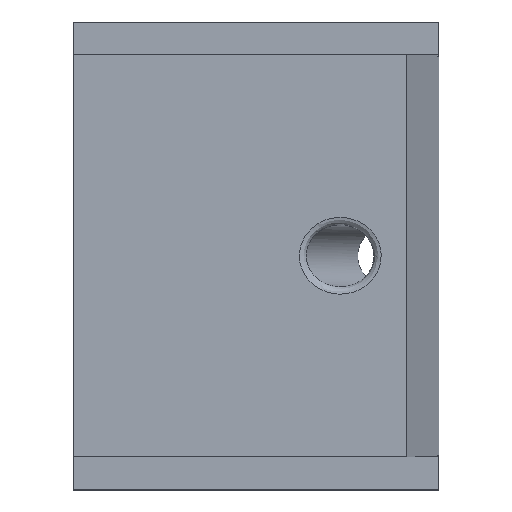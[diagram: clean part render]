
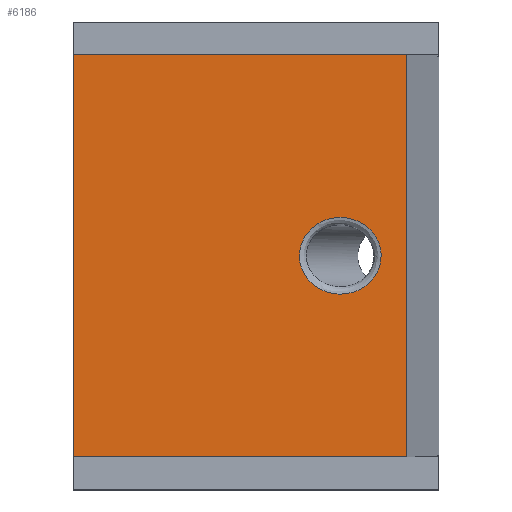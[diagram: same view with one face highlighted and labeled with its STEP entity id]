
A CAD part, top view. The second image highlights one B-rep face of the part: STEP entity #6186.
In plain terms, the highlighted planar face has unit normal (0, 0, 1).
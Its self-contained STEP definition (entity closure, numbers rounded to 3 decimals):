
#10 = CARTESIAN_POINT ( 'NONE',  ( 30.937, -10.5, 20. ) ) ;
#242 = VECTOR ( 'NONE', #6911, 1000. ) ;
#392 = EDGE_CURVE ( 'NONE', #10980, #9553, #9774, .T. ) ;
#413 = VECTOR ( 'NONE', #10930, 1000. ) ;
#547 = EDGE_CURVE ( 'NONE', #8639, #10764, #3340, .T. ) ;
#1038 =( BOUNDED_CURVE ( )  B_SPLINE_CURVE ( 3, ( #3530, #8043, #10, #2712, #7278, #6284, #9034 ),
 .UNSPECIFIED., .T., .F. ) 
 B_SPLINE_CURVE_WITH_KNOTS ( ( 4, 3, 4 ),
 ( 0., 3.142, 6.283 ),
 .UNSPECIFIED. ) 
 CURVE ( )  GEOMETRIC_REPRESENTATION_ITEM ( )  RATIONAL_B_SPLINE_CURVE ( ( 1., 0.333, 0.333, 1., 0.333, 0.333, 1. ) ) 
 REPRESENTATION_ITEM ( '' )  );
#1417 = DIRECTION ( 'NONE',  ( -1., 0., 0. ) ) ;
#1826 = LINE ( 'NONE', #2822, #4734 ) ;
#2502 = EDGE_LOOP ( 'NONE', ( #7431 ) ) ;
#2712 = CARTESIAN_POINT ( 'NONE',  ( 30.937, 0., 20. ) ) ;
#2822 = CARTESIAN_POINT ( 'NONE',  ( 0., 27.5, 20. ) ) ;
#3052 = CARTESIAN_POINT ( 'NONE',  ( 0., -27.5, 20. ) ) ;
#3279 = EDGE_CURVE ( 'NONE', #9456, #9456, #1038, .T. ) ;
#3289 = EDGE_CURVE ( 'NONE', #8639, #10980, #1826, .T. ) ;
#3340 = LINE ( 'NONE', #11311, #242 ) ;
#3424 = VECTOR ( 'NONE', #6199, 1000. ) ;
#3530 = CARTESIAN_POINT ( 'NONE',  ( 42.111, 0., 20. ) ) ;
#4357 = AXIS2_PLACEMENT_3D ( 'NONE', #5632, #9441, #1417 ) ;
#4362 = CARTESIAN_POINT ( 'NONE',  ( 45.632, 27.5, 20. ) ) ;
#4734 = VECTOR ( 'NONE', #9092, 1000. ) ;
#4937 = FACE_BOUND ( 'NONE', #2502, .T. ) ;
#5043 = EDGE_CURVE ( 'NONE', #10764, #9553, #10046, .T. ) ;
#5632 = CARTESIAN_POINT ( 'NONE',  ( 0., 27.5, 20. ) ) ;
#5866 = FACE_OUTER_BOUND ( 'NONE', #11234, .T. ) ;
#6053 = CARTESIAN_POINT ( 'NONE',  ( 42.111, 0., 20. ) ) ;
#6186 = ADVANCED_FACE ( 'NONE', ( #4937, #5866 ), #11030, .F. ) ;
#6199 = DIRECTION ( 'NONE',  ( 1., 0., 0. ) ) ;
#6284 = CARTESIAN_POINT ( 'NONE',  ( 42.111, 10.5, 20. ) ) ;
#6729 = CARTESIAN_POINT ( 'NONE',  ( 45.632, -27.5, 20. ) ) ;
#6911 = DIRECTION ( 'NONE',  ( 1., 0., 0. ) ) ;
#7278 = CARTESIAN_POINT ( 'NONE',  ( 30.937, 10.5, 20. ) ) ;
#7291 = ORIENTED_EDGE ( 'NONE', *, *, #3289, .T. ) ;
#7431 = ORIENTED_EDGE ( 'NONE', *, *, #3279, .T. ) ;
#8043 = CARTESIAN_POINT ( 'NONE',  ( 42.111, -10.5, 20. ) ) ;
#8639 = VERTEX_POINT ( 'NONE', #11545 ) ;
#9034 = CARTESIAN_POINT ( 'NONE',  ( 42.111, 0., 20. ) ) ;
#9092 = DIRECTION ( 'NONE',  ( 0., -1., 0. ) ) ;
#9441 = DIRECTION ( 'NONE',  ( 0., 0., -1. ) ) ;
#9456 = VERTEX_POINT ( 'NONE', #6053 ) ;
#9553 = VERTEX_POINT ( 'NONE', #6729 ) ;
#9774 = LINE ( 'NONE', #10659, #3424 ) ;
#9953 = ORIENTED_EDGE ( 'NONE', *, *, #547, .F. ) ;
#9980 = ORIENTED_EDGE ( 'NONE', *, *, #5043, .F. ) ;
#10046 = LINE ( 'NONE', #11039, #413 ) ;
#10659 = CARTESIAN_POINT ( 'NONE',  ( 0., -27.5, 20. ) ) ;
#10764 = VERTEX_POINT ( 'NONE', #4362 ) ;
#10930 = DIRECTION ( 'NONE',  ( 0., -1., 0. ) ) ;
#10980 = VERTEX_POINT ( 'NONE', #3052 ) ;
#11030 = PLANE ( 'NONE',  #4357 ) ;
#11039 = CARTESIAN_POINT ( 'NONE',  ( 45.632, 27.5, 20. ) ) ;
#11085 = ORIENTED_EDGE ( 'NONE', *, *, #392, .T. ) ;
#11234 = EDGE_LOOP ( 'NONE', ( #11085, #9980, #9953, #7291 ) ) ;
#11311 = CARTESIAN_POINT ( 'NONE',  ( 0., 27.5, 20. ) ) ;
#11545 = CARTESIAN_POINT ( 'NONE',  ( 0., 27.5, 20. ) ) ;
